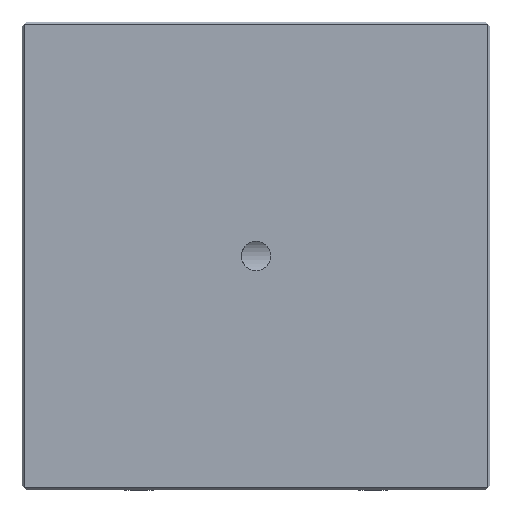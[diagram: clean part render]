
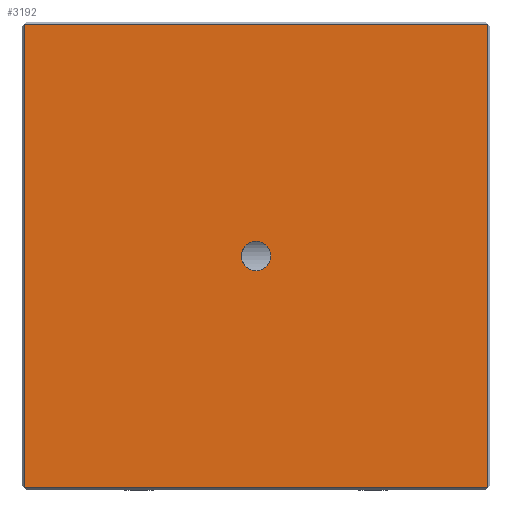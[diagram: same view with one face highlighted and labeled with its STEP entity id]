
A CAD part, front view. The second image highlights one B-rep face of the part: STEP entity #3192.
In plain terms, the highlighted planar face has unit normal (0, -1, 0).
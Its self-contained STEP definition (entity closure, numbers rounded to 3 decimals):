
#208 = EDGE_CURVE ( 'NONE', #3027, #9235, #13345, .T. ) ;
#458 = LINE ( 'NONE', #12191, #13651 ) ;
#758 = VERTEX_POINT ( 'NONE', #13666 ) ;
#879 = DIRECTION ( 'NONE',  ( 0., -1., 0. ) ) ;
#949 = CIRCLE ( 'NONE', #1863, 6. ) ;
#980 = VERTEX_POINT ( 'NONE', #10007 ) ;
#1180 = DIRECTION ( 'NONE',  ( 0., -1., 0. ) ) ;
#1389 = ORIENTED_EDGE ( 'NONE', *, *, #9427, .T. ) ;
#1708 = LINE ( 'NONE', #4080, #2130 ) ;
#1863 = AXIS2_PLACEMENT_3D ( 'NONE', #12941, #1180, #3415 ) ;
#1897 = VERTEX_POINT ( 'NONE', #8406 ) ;
#2130 = VECTOR ( 'NONE', #13487, 1000. ) ;
#3019 = CARTESIAN_POINT ( 'NONE',  ( 95., 0., -95. ) ) ;
#3027 = VERTEX_POINT ( 'NONE', #11072 ) ;
#3192 = ADVANCED_FACE ( 'NONE', ( #8611, #5400 ), #3386, .F. ) ;
#3318 = DIRECTION ( 'NONE',  ( 0., 0., 1. ) ) ;
#3386 = PLANE ( 'NONE',  #13397 ) ;
#3400 = VECTOR ( 'NONE', #9214, 1000. ) ;
#3415 = DIRECTION ( 'NONE',  ( 0., 0., -1. ) ) ;
#3775 = EDGE_LOOP ( 'NONE', ( #7043, #4296 ) ) ;
#4080 = CARTESIAN_POINT ( 'NONE',  ( 96., 0., -95. ) ) ;
#4296 = ORIENTED_EDGE ( 'NONE', *, *, #6157, .F. ) ;
#5400 = FACE_OUTER_BOUND ( 'NONE', #9786, .T. ) ;
#6157 = EDGE_CURVE ( 'NONE', #9235, #3027, #949, .T. ) ;
#6266 = EDGE_CURVE ( 'NONE', #1897, #758, #458, .T. ) ;
#6646 = VERTEX_POINT ( 'NONE', #3019 ) ;
#6835 = EDGE_CURVE ( 'NONE', #6646, #980, #10250, .T. ) ;
#7043 = ORIENTED_EDGE ( 'NONE', *, *, #208, .F. ) ;
#7112 = VECTOR ( 'NONE', #7645, 1000. ) ;
#7633 = DIRECTION ( 'NONE',  ( 0., 1., 0. ) ) ;
#7645 = DIRECTION ( 'NONE',  ( -1., 0., 0. ) ) ;
#8023 = ORIENTED_EDGE ( 'NONE', *, *, #10690, .T. ) ;
#8406 = CARTESIAN_POINT ( 'NONE',  ( -95., 0., 95. ) ) ;
#8611 = FACE_BOUND ( 'NONE', #3775, .T. ) ;
#8644 = ORIENTED_EDGE ( 'NONE', *, *, #6835, .T. ) ;
#8971 = LINE ( 'NONE', #12925, #7112 ) ;
#9063 = DIRECTION ( 'NONE',  ( 0., 0., -1. ) ) ;
#9214 = DIRECTION ( 'NONE',  ( 0., 0., 1. ) ) ;
#9235 = VERTEX_POINT ( 'NONE', #13301 ) ;
#9427 = EDGE_CURVE ( 'NONE', #980, #1897, #8971, .T. ) ;
#9786 = EDGE_LOOP ( 'NONE', ( #8023, #8644, #1389, #11865 ) ) ;
#10007 = CARTESIAN_POINT ( 'NONE',  ( 95., 0., 95. ) ) ;
#10250 = LINE ( 'NONE', #13255, #3400 ) ;
#10690 = EDGE_CURVE ( 'NONE', #758, #6646, #1708, .T. ) ;
#11072 = CARTESIAN_POINT ( 'NONE',  ( 0., 0., -6. ) ) ;
#11126 = AXIS2_PLACEMENT_3D ( 'NONE', #11581, #879, #11839 ) ;
#11581 = CARTESIAN_POINT ( 'NONE',  ( 0., 0., 0. ) ) ;
#11839 = DIRECTION ( 'NONE',  ( 0., 0., -1. ) ) ;
#11865 = ORIENTED_EDGE ( 'NONE', *, *, #6266, .T. ) ;
#12191 = CARTESIAN_POINT ( 'NONE',  ( -95., 0., 96. ) ) ;
#12782 = CARTESIAN_POINT ( 'NONE',  ( 96., 0., 96. ) ) ;
#12925 = CARTESIAN_POINT ( 'NONE',  ( 96., 0., 95. ) ) ;
#12941 = CARTESIAN_POINT ( 'NONE',  ( 0., 0., 0. ) ) ;
#13255 = CARTESIAN_POINT ( 'NONE',  ( 95., 0., 96. ) ) ;
#13301 = CARTESIAN_POINT ( 'NONE',  ( 0., 0., 6. ) ) ;
#13345 = CIRCLE ( 'NONE', #11126, 6. ) ;
#13397 = AXIS2_PLACEMENT_3D ( 'NONE', #12782, #7633, #3318 ) ;
#13487 = DIRECTION ( 'NONE',  ( 1., 0., 0. ) ) ;
#13651 = VECTOR ( 'NONE', #9063, 1000. ) ;
#13666 = CARTESIAN_POINT ( 'NONE',  ( -95., 0., -95. ) ) ;
